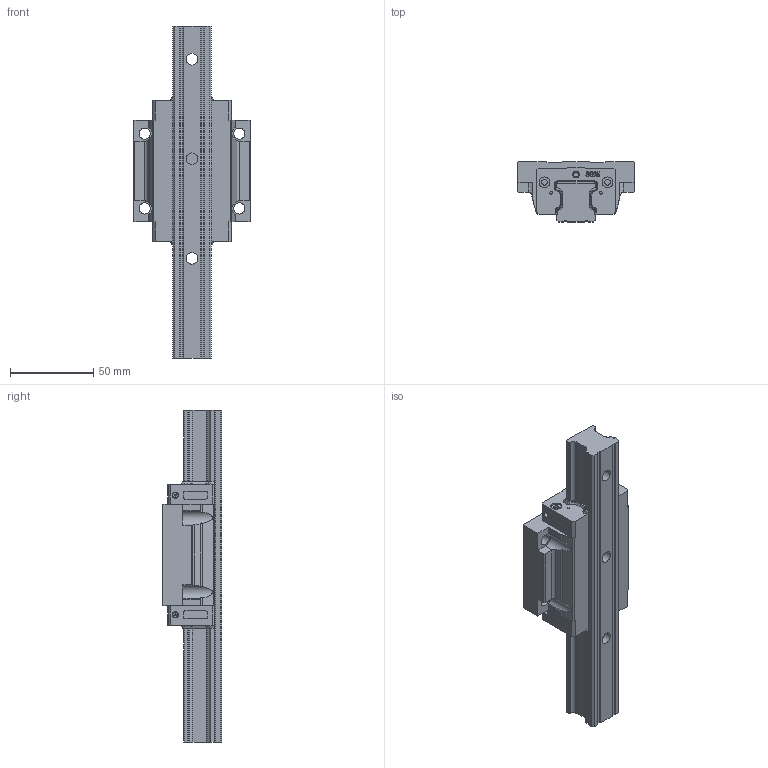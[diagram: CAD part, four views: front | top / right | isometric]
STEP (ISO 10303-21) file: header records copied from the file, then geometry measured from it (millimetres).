
FILE_DESCRIPTION(/* description */ (''),/* implementation_level */ '2;1');
FILE_NAME(/* name */ 'SGH25A.stp',/* time_stamp */ '2021-05-27T16:16:17+08:00',/* author */ (''),/* organization */ (''),/* preprocessor_version */ 'ST-DEVELOPER v15',/* originating_system */ 'SIEMENS PLM Software NX 8.5',/* authorisation */ '');
FILE_SCHEMA (('CONFIG_CONTROL_DESIGN'));
Length unit declared in the file: millimetre
Products named in the file (1): SGH25A
Bounding box: 70 x 36 x 200 mm (x, y, z)
Volume: 198705.1 mm3; surface area: 47200.5 mm2
Topology: 2 solids, 6 shells, 508 faces, 1389 edges, 932 vertices
Faces by surface type: plane 232, cylinder 119, extrusion 114, cone 39, bspline 4
Full cylindrical faces by diameter (mm): 1 x4, 1.6 x4, 3.2 x4, 3.3 x4, 3.5 x4, 6.5 x4, 6.8 x4, 7 x3, 11 x3
Entity records: 18548 total; most frequent: CARTESIAN_POINT 6255, ORIENTED_EDGE 2630, DIRECTION 2190, EDGE_CURVE 1315, VERTEX_POINT 903, VECTOR 834, LINE 720, AXIS2_PLACEMENT_3D 678
